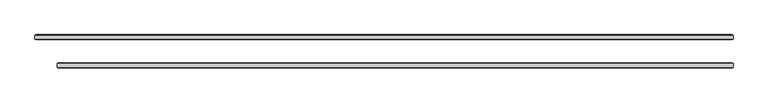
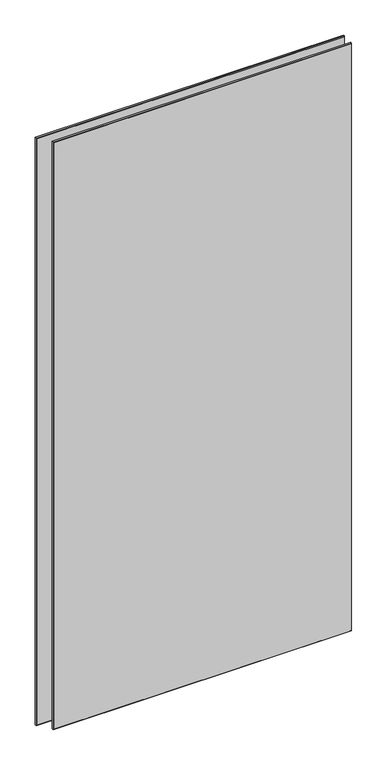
"""IFC4 building model written with IfcOpenShell, lengths in millimetres: plate geometry, 10-AMG-2-Панель двойной витраж10 : Стекло 10mm."""

from ifc_helpers import new_model, si_unit, origin, place, context, project, spatial, faceted_brep, source, transform, mapped, element, save


def plate_c23ce983(model_context):
    return source(origin(), model_context, "Body", "Brep", [
        faceted_brep([(679.8000674, 31.4961653, 2758.0), (-700.8000674, 31.4961653, 2758.0), (-700.8000674, 24.5038347, 2758.0), (679.8000674, 24.5038347, 2758.0), (679.8000674, 24.4960578, -20.0), (-700.8000674, 24.4960578, -20.0), (-700.8000674, 31.4961653, -20.0), (679.8000674, 31.4961653, -20.0), (-699.2962327, 23.0, 2756.4961653), (-699.2962327, 23.0, -18.5039422), (678.2962327, 23.0, -18.5039422), (678.2962327, 23.0, 2756.4961653), (678.2962327, 33.0, 2756.4961653), (678.2962327, 33.0, -18.4961653), (-699.2962327, 33.0, -18.4961653), (-699.2962327, 33.0, 2756.4961653)], [[[0, 1, 2, 3]], [[4, 5, 6, 7]], [[8, 9, 10, 11]], [[1, 6, 5, 2]], [[12, 13, 14, 15]], [[3, 4, 7, 0]], [[3, 11, 10, 4]], [[7, 13, 12, 0]], [[0, 12, 15, 1]], [[2, 8, 11, 3]], [[5, 9, 8, 2]], [[1, 15, 14, 6]], [[6, 14, 13, 7]], [[4, 10, 9, 5]]]),
        faceted_brep([(679.8000674, -24.5038347, 2758.0), (-656.8000674, -24.5038347, 2758.0), (-656.8000674, -31.4961653, 2758.0), (679.8000674, -31.4961653, 2758.0), (679.8000674, -31.5039422, -20.0), (-656.8000674, -31.5039422, -20.0), (-656.8000674, -24.5038347, -20.0), (679.8000674, -24.5038347, -20.0), (-655.2962327, -33.0, 2756.4961653), (-655.2962327, -33.0, -18.5039422), (678.2962327, -33.0, -18.5039422), (678.2962327, -33.0, 2756.4961653), (678.2962327, -23.0, 2756.4961653), (678.2962327, -23.0, -18.4961653), (-655.2962327, -23.0, -18.4961653), (-655.2962327, -23.0, 2756.4961653)], [[[0, 1, 2, 3]], [[4, 5, 6, 7]], [[8, 9, 10, 11]], [[1, 6, 5, 2]], [[12, 13, 14, 15]], [[3, 4, 7, 0]], [[3, 11, 10, 4]], [[7, 13, 12, 0]], [[5, 9, 8, 2]], [[1, 15, 14, 6]], [[0, 12, 15, 1]], [[2, 8, 11, 3]], [[6, 14, 13, 7]], [[4, 10, 9, 5]]]),
    ])


if __name__ == "__main__":
    model = new_model("IFC4")
    model_context = context("Model", 3, world=origin())
    ifc_project = project(units=[si_unit("LENGTHUNIT", "METRE", prefix="MILLI")], contexts=[model_context])
    site = spatial("IfcSite", under=ifc_project)
    building = spatial("IfcBuilding", under=site)
    placement = place(None, origin())
    plate_shape = plate_c23ce983(model_context)
    element("IfcPlate", 1, ObjectType="10-AMG-2-Панель двойной витраж10 : Стекло 10mm", at=placement, inside=building, context=model_context, shape_type="MappedRepresentation", body=[
        mapped(plate_shape, transform((0.0, 0.0, 0.0), x_axis=(1.0, 0.0, 0.0), y_axis=(0.0, 1.0, 0.0), z_axis=(0.0, 0.0, 1.0))),
    ])
    save(model, "model.ifc")
